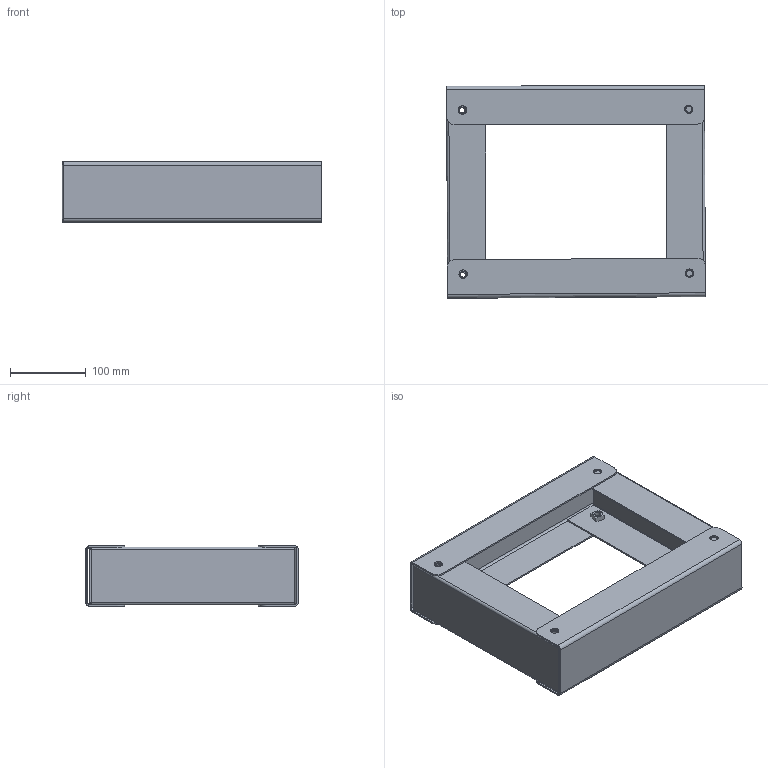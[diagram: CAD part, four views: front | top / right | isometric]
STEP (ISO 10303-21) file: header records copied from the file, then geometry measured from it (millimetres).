
FILE_DESCRIPTION(('CATIA V5 STEP Exchange'),'2;1');
FILE_NAME('C:\Users\Administrator\Desktop\滑轨副驾连接盒子样件数据-20230614.stp','2023-06-14T05:55:58+00:00',('none'),('none'),'CATIA Version 5 Release 20 GA (IN-10)','CATIA V5 STEP AP214','none');
FILE_SCHEMA(('AUTOMOTIVE_DESIGN { 1 0 10303 214 1 1 1 1 }'));
Length unit declared in the file: millimetre
Products named in the file (1): SHT0015946_AllCATPart
Bounding box: 341.21 x 279.87 x 80.13 mm (x, y, z)
Volume: 516014.7 mm3; surface area: 526130.3 mm2
Topology: 13 solids, 13 shells, 226 faces, 584 edges, 384 vertices
Faces by surface type: plane 98, cylinder 80, cone 48
Entity records: 7593 total; most frequent: CARTESIAN_POINT 2655, ORIENTED_EDGE 1168, DIRECTION 697, EDGE_CURVE 548, VERTEX_POINT 360, AXIS2_PLACEMENT_3D 278, EDGE_LOOP 278, VECTOR 267
